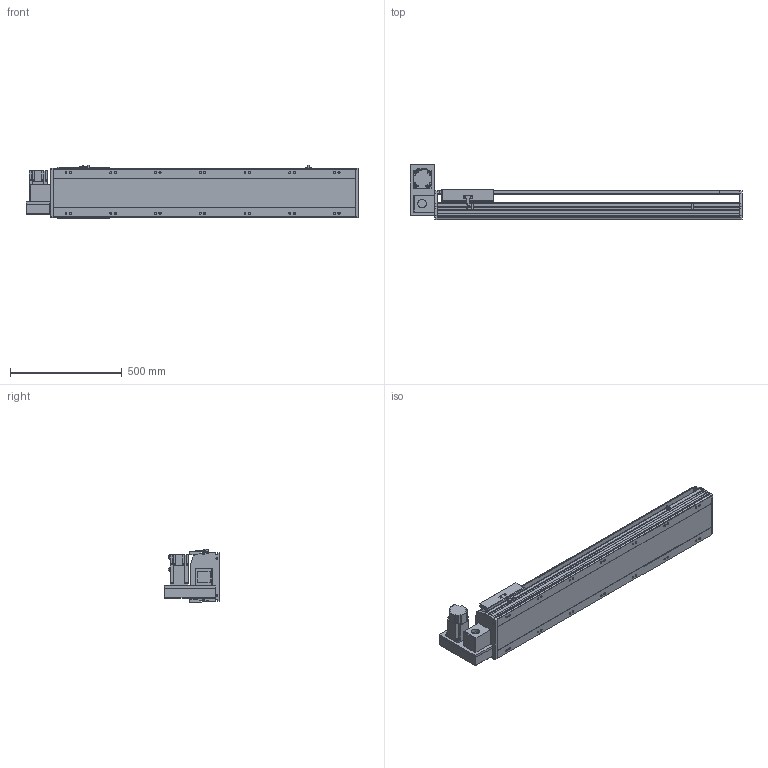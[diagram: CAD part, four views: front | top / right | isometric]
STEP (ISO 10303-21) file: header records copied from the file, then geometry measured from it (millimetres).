
FILE_DESCRIPTION(/* description */ ('STEP AP214'),/* implementation_level */ '2;1');
FILE_NAME(/* name */ 'PBS220-P40-S1000-LU-T75-C1-N(0)',/* time_stamp */ '2022-06-13T02:29:40+02:00',/* author */ ('License CC BY-ND 4.0'),/* organization */ ('CADENAS'),/* preprocessor_version */ 'ST-DEVELOPER v18.102',/* originating_system */ 'PARTsolutions',/* authorisation */ ' ');
FILE_SCHEMA (('AUTOMOTIVE_DESIGN {1 0 10303 214 3 1 1}'));
Length unit declared in the file: millimetre
Products named in the file (7): PBS220-P40-S1000-LU-T75-C1-N(0); PBS220_sensor; PBS220_plant; PBS220_sliser; T75-p1; PBS220T-LU_motors; PBS220-S1000()_body
Assembly tree (8 placements, depth 2):
  PBS220-P40-S1000-LU-T75-C1-N(0)
    PBS220_sensor  x3
    PBS220_plant
    PBS220_sliser
    T75-p1
    PBS220T-LU_motors
    PBS220-S1000()_body
Bounding box: 1484 x 247 x 238.5 mm (x, y, z)
Volume: 21462328.6 mm3; surface area: 2098735.5 mm2
Topology: 8 solids, 8 shells, 902 faces, 2368 edges, 1540 vertices
Faces by surface type: plane 594, cylinder 270, cone 38
Full cylindrical faces by diameter (mm): 2.013 x4, 4.5 x14, 4.917 x4, 6 x7, 6.647 x8, 8 x10, 8.376 x14, 8.5 x14, 10 x6, 14 x14, 38 x2, 40 x1, 70 x1
Entity records: 25317 total; most frequent: CARTESIAN_POINT 4426, DIRECTION 4401, ORIENTED_EDGE 4070, EDGE_CURVE 2035, AXIS2_PLACEMENT_3D 1529, VERTEX_POINT 1400, LINE 1343, VECTOR 1343
